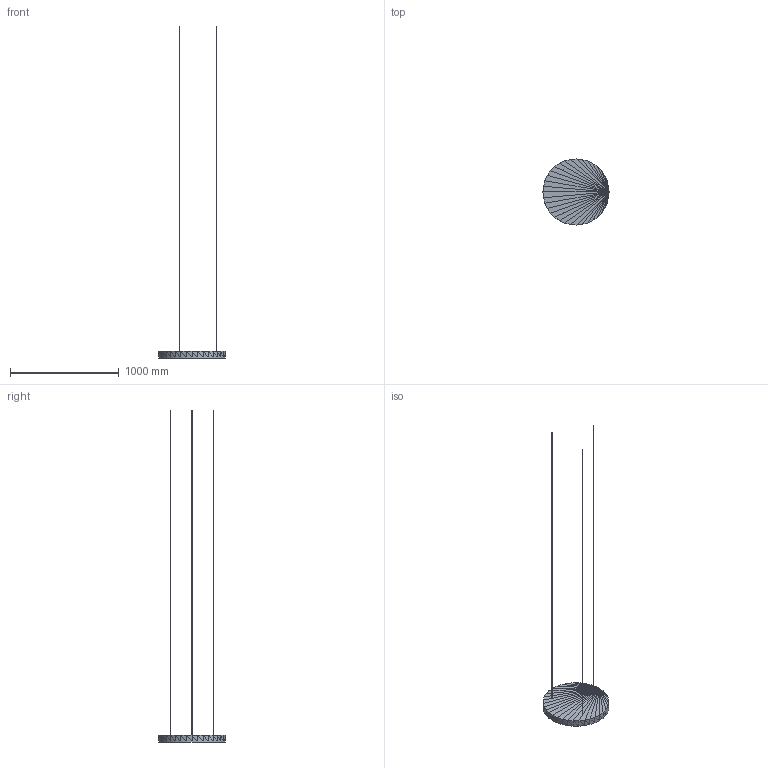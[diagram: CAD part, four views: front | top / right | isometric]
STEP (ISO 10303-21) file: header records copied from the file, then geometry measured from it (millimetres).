
FILE_DESCRIPTION(('ISINAC STEP AP214'),'2;1');
FILE_NAME('ISINAC_CIR.610_60mm_COLGADO','2026-05-03T10:49:20',('ISINAC'),('www.isinac.com'),'ISINAC BIM Generator 1.0','','');
FILE_SCHEMA(('AUTOMOTIVE_DESIGN'));
Length unit declared in the file: millimetre
Products named in the file (1): ISINAC_CIR.610_60mm_COLGADO
Bounding box: 610 x 610 x 3060 mm (x, y, z)
Surface area: 777401 mm2 (no closed solid volume)
Topology: 0 solids, 200 shells, 200 faces, 600 edges, 600 vertices
Faces by surface type: plane 200
Entity records: 2213 total; most frequent: CARTESIAN_POINT 800, DIRECTION 400, POLY_LOOP 200, FACE_OUTER_BOUND 200, AXIS2_PLACEMENT_3D 200, PLANE 200, FACE_SURFACE 200, CLOSED_SHELL 1
